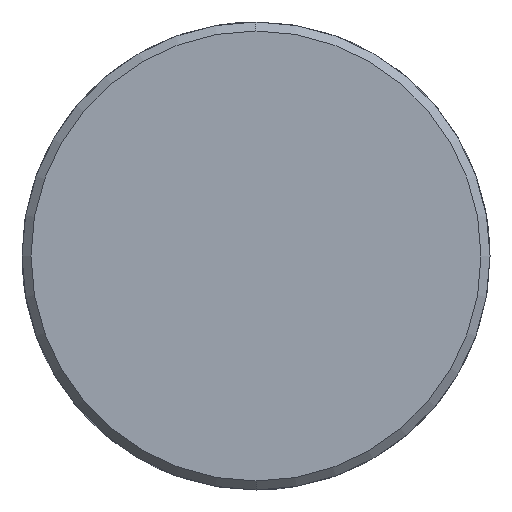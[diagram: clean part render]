
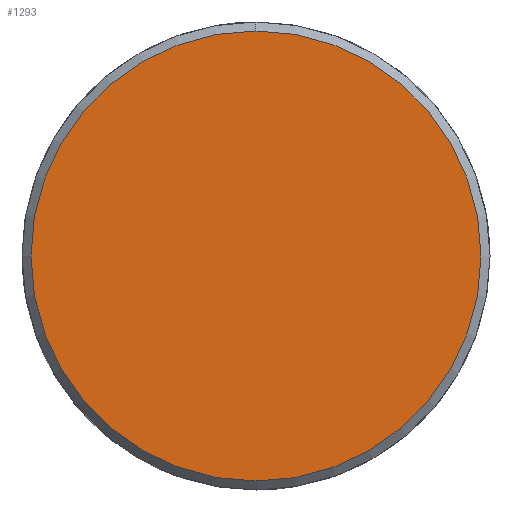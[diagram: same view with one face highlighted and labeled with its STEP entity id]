
A CAD part, left-side view. The second image highlights one B-rep face of the part: STEP entity #1293.
In plain terms, the highlighted planar face has unit normal (-1, 0, 0).
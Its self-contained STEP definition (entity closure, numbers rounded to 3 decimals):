
#1225=CARTESIAN_POINT('Vertex',(-8.,0.,-25.)) ;
#1228=CARTESIAN_POINT('Axis2P3D Location',(-8.,0.,0.)) ;
#1232=CARTESIAN_POINT('Vertex',(-8.,25.,0.)) ;
#1235=CARTESIAN_POINT('Axis2P3D Location',(-8.,0.,0.)) ;
#1239=CARTESIAN_POINT('Vertex',(-8.,0.,25.)) ;
#1261=CARTESIAN_POINT('Axis2P3D Location',(-8.,0.,0.)) ;
#1265=CARTESIAN_POINT('Vertex',(-8.,-25.,0.)) ;
#1268=CARTESIAN_POINT('Axis2P3D Location',(-8.,0.,0.)) ;
#1282=CARTESIAN_POINT('Axis2P3D Location',(-8.,0.,0.)) ;
#1229=DIRECTION('Axis2P3D Direction',(1.,0.,-0.)) ;
#1236=DIRECTION('Axis2P3D Direction',(1.,0.,-0.)) ;
#1262=DIRECTION('Axis2P3D Direction',(1.,0.,-0.)) ;
#1269=DIRECTION('Axis2P3D Direction',(1.,0.,-0.)) ;
#1283=DIRECTION('Axis2P3D Direction',(1.,0.,-0.)) ;
#1284=DIRECTION('Axis2P3D XDirection',(-0.,0.,-1.)) ;
#1230=AXIS2_PLACEMENT_3D('Circle Axis2P3D',#1228,#1229,$) ;
#1237=AXIS2_PLACEMENT_3D('Circle Axis2P3D',#1235,#1236,$) ;
#1263=AXIS2_PLACEMENT_3D('Circle Axis2P3D',#1261,#1262,$) ;
#1270=AXIS2_PLACEMENT_3D('Circle Axis2P3D',#1268,#1269,$) ;
#1285=AXIS2_PLACEMENT_3D('Plane Axis2P3D',#1282,#1283,#1284) ;
#1288=ORIENTED_EDGE('',*,*,#1234,.F.) ;
#1289=ORIENTED_EDGE('',*,*,#1272,.F.) ;
#1290=ORIENTED_EDGE('',*,*,#1267,.F.) ;
#1291=ORIENTED_EDGE('',*,*,#1241,.F.) ;
#1293=ADVANCED_FACE('351-40X46X140',(#1292),#1286,.F.) ;
#1231=CIRCLE('generated circle',#1230,25.) ;
#1238=CIRCLE('generated circle',#1237,25.) ;
#1264=CIRCLE('generated circle',#1263,25.) ;
#1271=CIRCLE('generated circle',#1270,25.) ;
#1234=EDGE_CURVE('',#1226,#1233,#1231,.T.) ;
#1241=EDGE_CURVE('',#1233,#1240,#1238,.T.) ;
#1267=EDGE_CURVE('',#1240,#1266,#1264,.T.) ;
#1272=EDGE_CURVE('',#1266,#1226,#1271,.T.) ;
#1287=EDGE_LOOP('',(#1288,#1289,#1290,#1291)) ;
#1292=FACE_OUTER_BOUND('',#1287,.T.) ;
#1286=PLANE('Plane',#1285) ;
#1226=VERTEX_POINT('',#1225) ;
#1233=VERTEX_POINT('',#1232) ;
#1240=VERTEX_POINT('',#1239) ;
#1266=VERTEX_POINT('',#1265) ;
